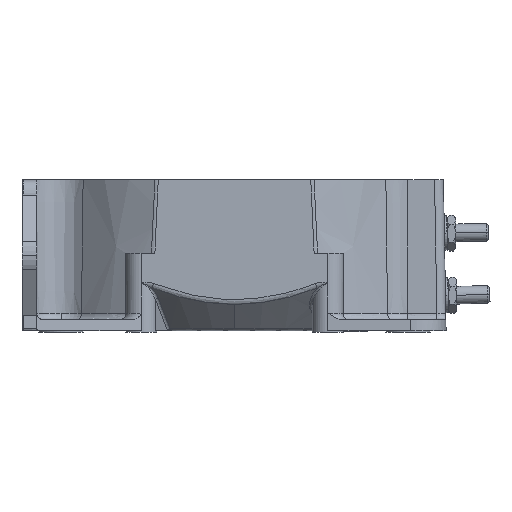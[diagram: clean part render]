
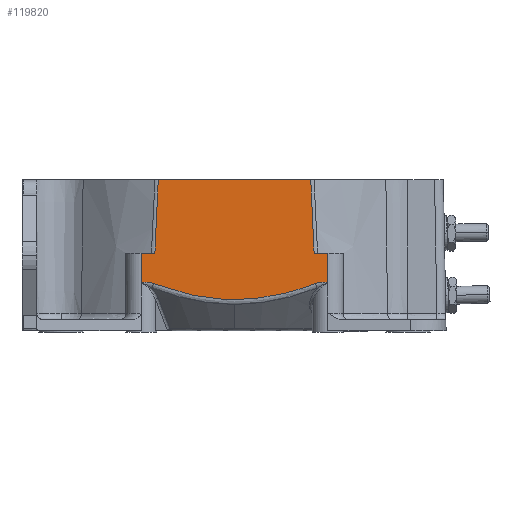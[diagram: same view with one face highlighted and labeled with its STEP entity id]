
A CAD part, left-side view. The second image highlights one B-rep face of the part: STEP entity #119820.
In plain terms, the highlighted planar face has unit normal (-1, 0, 0) as drawn and (1, 0, 0) by its records, which use the part's own axes.
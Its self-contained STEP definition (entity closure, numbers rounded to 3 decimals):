
#34090=CARTESIAN_POINT('',(44.85,21.,-34.581));
#34100=DIRECTION('',(0.,0.,1.));
#34110=VECTOR('',#34100,1.);
#34120=LINE('',#34090,#34110);
#34150=CARTESIAN_POINT('',(44.85,21.,-23.202));
#34160=VERTEX_POINT('',#34150);
#110420=CARTESIAN_POINT('',(44.85,17.149,0.));
#110430=VERTEX_POINT('',#110420);
#110460=CARTESIAN_POINT('',(44.85,0.,0.));
#110470=DIRECTION('',(0.,-1.,-0.));
#110480=VECTOR('',#110470,1.);
#110490=LINE('',#110460,#110480);
#110500=CARTESIAN_POINT('',(44.85,-17.149,0.));
#110510=VERTEX_POINT('',#110500);
#110520=EDGE_CURVE('',#110430,#110510,#110490,.T.);
#118020=CARTESIAN_POINT('',(44.85,21.,-16.5));
#118030=VERTEX_POINT('',#118020);
#118060=CARTESIAN_POINT('',(44.85,0.,-16.5));
#118070=DIRECTION('',(0.,-1.,-0.));
#118080=VECTOR('',#118070,1.);
#118090=LINE('',#118060,#118080);
#118100=CARTESIAN_POINT('',(44.85,17.909,-16.5));
#118110=VERTEX_POINT('',#118100);
#118120=EDGE_CURVE('',#118030,#118110,#118090,.T.);
#118500=CARTESIAN_POINT('',(44.85,-9828.029,
-462.093));
#118510=DIRECTION('',(1.,0.,0.));
#118520=DIRECTION('',(0.,-1.,0.));
#118530=AXIS2_PLACEMENT_3D('',#118500,#118510,#118520);
#118540=CIRCLE('',#118530,9856.016);
#118550=EDGE_CURVE('',#118110,#110430,#118540,.T.);
#118600=CARTESIAN_POINT('',(44.85,22.053,0.678));
#118610=DIRECTION('',(1.,0.,0.));
#118620=DIRECTION('',(0.,-1.,0.));
#118630=AXIS2_PLACEMENT_3D('',#118600,#118610,#118620);
#118640=PLANE('',#118630);
#118650=CARTESIAN_POINT('',(44.85,-18.198,-23.335));
#118660=CARTESIAN_POINT('',(44.85,-18.159,-23.35));
#118670=CARTESIAN_POINT('',(44.85,-18.121,-23.365));
#118680=CARTESIAN_POINT('',(44.85,-17.683,-23.533));
#118690=CARTESIAN_POINT('',(44.85,-17.283,-23.683));
#118700=CARTESIAN_POINT('',(44.85,-16.465,-23.98));
#118710=CARTESIAN_POINT('',(44.85,-16.046,-24.127));
#118720=CARTESIAN_POINT('',(44.85,-14.786,-24.554));
#118730=CARTESIAN_POINT('',(44.85,-13.94,-24.821));
#118740=CARTESIAN_POINT('',(44.85,-12.663,-25.19));
#118750=CARTESIAN_POINT('',(44.85,-12.235,-25.308));
#118760=CARTESIAN_POINT('',(44.85,-11.377,-25.534));
#118770=CARTESIAN_POINT('',(44.85,-10.947,-25.641));
#118780=CARTESIAN_POINT('',(44.85,-10.085,-25.844));
#118790=CARTESIAN_POINT('',(44.85,-9.653,-25.94));
#118800=CARTESIAN_POINT('',(44.85,-8.787,-26.12));
#118810=CARTESIAN_POINT('',(44.85,-8.353,-26.205));
#118820=CARTESIAN_POINT('',(44.85,-7.483,-26.361));
#118830=CARTESIAN_POINT('',(44.85,-7.046,-26.433));
#118840=CARTESIAN_POINT('',(44.85,-6.172,-26.565));
#118850=CARTESIAN_POINT('',(44.85,-5.733,-26.625));
#118860=CARTESIAN_POINT('',(44.85,-4.855,-26.731));
#118870=CARTESIAN_POINT('',(44.85,-4.416,-26.778));
#118880=CARTESIAN_POINT('',(44.85,-3.535,-26.858));
#118890=CARTESIAN_POINT('',(44.85,-3.094,-26.892));
#118900=CARTESIAN_POINT('',(44.85,-2.211,-26.946));
#118910=CARTESIAN_POINT('',(44.85,-1.77,-26.966));
#118920=CARTESIAN_POINT('',(44.85,-0.886,-26.993));
#118930=CARTESIAN_POINT('',(44.85,-0.444,-27.));
#118940=CARTESIAN_POINT('',(44.85,0.441,-27.));
#118950=CARTESIAN_POINT('',(44.85,0.883,-26.993));
#118960=CARTESIAN_POINT('',(44.85,1.767,-26.966));
#118970=CARTESIAN_POINT('',(44.85,2.208,-26.946));
#118980=CARTESIAN_POINT('',(44.85,3.091,-26.892));
#118990=CARTESIAN_POINT('',(44.85,3.532,-26.859));
#119000=CARTESIAN_POINT('',(44.85,4.413,-26.778));
#119010=CARTESIAN_POINT('',(44.85,4.852,-26.731));
#119020=CARTESIAN_POINT('',(44.85,5.73,-26.625));
#119030=CARTESIAN_POINT('',(44.85,6.168,-26.565));
#119040=CARTESIAN_POINT('',(44.85,7.043,-26.434));
#119050=CARTESIAN_POINT('',(44.85,7.48,-26.362));
#119060=CARTESIAN_POINT('',(44.85,8.35,-26.205));
#119070=CARTESIAN_POINT('',(44.85,8.784,-26.121));
#119080=CARTESIAN_POINT('',(44.85,9.65,-25.941));
#119090=CARTESIAN_POINT('',(44.85,10.082,-25.845));
#119100=CARTESIAN_POINT('',(44.85,10.944,-25.642));
#119110=CARTESIAN_POINT('',(44.85,11.375,-25.534));
#119120=CARTESIAN_POINT('',(44.85,12.232,-25.309));
#119130=CARTESIAN_POINT('',(44.85,12.66,-25.191));
#119140=CARTESIAN_POINT('',(44.85,13.937,-24.822));
#119150=CARTESIAN_POINT('',(44.85,14.783,-24.555));
#119160=CARTESIAN_POINT('',(44.85,16.044,-24.128));
#119170=CARTESIAN_POINT('',(44.85,16.462,-23.981));
#119180=CARTESIAN_POINT('',(44.85,17.282,-23.684));
#119190=CARTESIAN_POINT('',(44.85,17.683,-23.534));
#119200=CARTESIAN_POINT('',(44.85,18.121,-23.365));
#119210=CARTESIAN_POINT('',(44.85,18.159,-23.35));
#119220=CARTESIAN_POINT('',(44.85,18.198,-23.335));
#119230=B_SPLINE_CURVE_WITH_KNOTS('',3,(#118650,#118660,#118670,#118680,
#118690,#118700,#118710,#118720,#118730,#118740,#118750,#118760,#118770,
#118780,#118790,#118800,#118810,#118820,#118830,#118840,#118850,#118860,
#118870,#118880,#118890,#118900,#118910,#118920,#118930,#118940,#118950,
#118960,#118970,#118980,#118990,#119000,#119010,#119020,#119030,#119040,
#119050,#119060,#119070,#119080,#119090,#119100,#119110,#119120,#119130,
#119140,#119150,#119160,#119170,#119180,#119190,#119200,#119210,#119220)
,.UNSPECIFIED.,.F.,.F.,(4,2,2,2,2,2,2,2,2,2,2,2,2,2,2,2,2,2,2,2,2,2,2,2,
2,2,2,2,4),(0.,0.003,0.038,0.073,
0.144,0.18,0.216,0.251,
0.287,0.322,0.358,0.393,
0.429,0.464,0.5,0.536,
0.571,0.607,0.642,0.678,
0.713,0.749,0.784,0.82,
0.856,0.927,0.962,0.997,
1.),.UNSPECIFIED.);
#119240=CARTESIAN_POINT('',(44.85,-18.198,-23.335));
#119250=VERTEX_POINT('',#119240);
#119260=CARTESIAN_POINT('',(44.85,18.198,-23.335));
#119270=VERTEX_POINT('',#119260);
#119280=EDGE_CURVE('',#119250,#119270,#119230,.T.);
#119290=ORIENTED_EDGE('',*,*,#119280,.T.);
#119300=CARTESIAN_POINT('',(44.85,-18.198,-23.335));
#119310=CARTESIAN_POINT('',(44.85,-18.659,-23.157));
#119320=CARTESIAN_POINT('',(44.85,-19.388,-23.002));
#119330=CARTESIAN_POINT('',(44.85,-20.232,-23.036));
#119340=CARTESIAN_POINT('',(44.85,-20.682,-23.112));
#119350=CARTESIAN_POINT('',(44.85,-20.896,
-23.17));
#119360=CARTESIAN_POINT('',(44.85,-21.,-23.202));
#119370=B_SPLINE_CURVE_WITH_KNOTS('',3,(#119300,#119310,#119320,#119330,
#119340,#119350,#119360),.UNSPECIFIED.,.F.,.F.,(4,1,1,1,4),(0.,
0.52,0.767,0.885,1.),.UNSPECIFIED.)
;
#119380=CARTESIAN_POINT('',(44.85,-21.,-23.202));
#119390=VERTEX_POINT('',#119380);
#119400=EDGE_CURVE('',#119250,#119390,#119370,.T.);
#119410=ORIENTED_EDGE('',*,*,#119400,.F.);
#119420=CARTESIAN_POINT('',(44.85,-21.,-26.48));
#119430=DIRECTION('',(0.,0.,-1.));
#119440=VECTOR('',#119430,1.);
#119450=LINE('',#119420,#119440);
#119460=CARTESIAN_POINT('',(44.85,-21.,-16.5));
#119470=VERTEX_POINT('',#119460);
#119480=EDGE_CURVE('',#119470,#119390,#119450,.T.);
#119490=ORIENTED_EDGE('',*,*,#119480,.T.);
#119500=CARTESIAN_POINT('',(44.85,0.,-16.5));
#119510=DIRECTION('',(0.,-1.,0.));
#119520=VECTOR('',#119510,1.);
#119530=LINE('',#119500,#119520);
#119540=CARTESIAN_POINT('',(44.85,-17.909,-16.5));
#119550=VERTEX_POINT('',#119540);
#119560=EDGE_CURVE('',#119550,#119470,#119530,.T.);
#119570=ORIENTED_EDGE('',*,*,#119560,.T.);
#119580=CARTESIAN_POINT('',(44.85,9512.765,
-447.628));
#119590=DIRECTION('',(1.,0.,0.));
#119600=DIRECTION('',(0.,-1.,0.));
#119610=AXIS2_PLACEMENT_3D('',#119580,#119590,#119600);
#119620=CIRCLE('',#119610,9540.421);
#119630=EDGE_CURVE('',#110510,#119550,#119620,.T.);
#119640=ORIENTED_EDGE('',*,*,#119630,.T.);
#119650=ORIENTED_EDGE('',*,*,#110520,.T.);
#119660=ORIENTED_EDGE('',*,*,#118550,.T.);
#119670=ORIENTED_EDGE('',*,*,#118120,.T.);
#119680=EDGE_CURVE('',#34160,#118030,#34120,.T.);
#119690=ORIENTED_EDGE('',*,*,#119680,.T.);
#119700=CARTESIAN_POINT('',(44.85,18.198,-23.335));
#119710=CARTESIAN_POINT('',(44.85,18.659,-23.157));
#119720=CARTESIAN_POINT('',(44.85,19.388,-23.002));
#119730=CARTESIAN_POINT('',(44.85,20.231,
-23.036));
#119740=CARTESIAN_POINT('',(44.85,20.681,-23.112));
#119750=CARTESIAN_POINT('',(44.85,20.896,
-23.17));
#119760=CARTESIAN_POINT('',(44.85,21.,-23.202));
#119770=B_SPLINE_CURVE_WITH_KNOTS('',3,(#119700,#119710,#119720,#119730,
#119740,#119750,#119760),.UNSPECIFIED.,.F.,.F.,(4,1,1,1,4),(0.,
0.52,0.766,0.885,1.),.UNSPECIFIED.);
#119780=EDGE_CURVE('',#119270,#34160,#119770,.T.);
#119790=ORIENTED_EDGE('',*,*,#119780,.T.);
#119800=EDGE_LOOP('',(#119790,#119690,#119670,#119660,#119650,#119640,
#119570,#119490,#119410,#119290));
#119810=FACE_OUTER_BOUND('',#119800,.T.);
#119820=ADVANCED_FACE('',(#119810),#118640,.T.);
